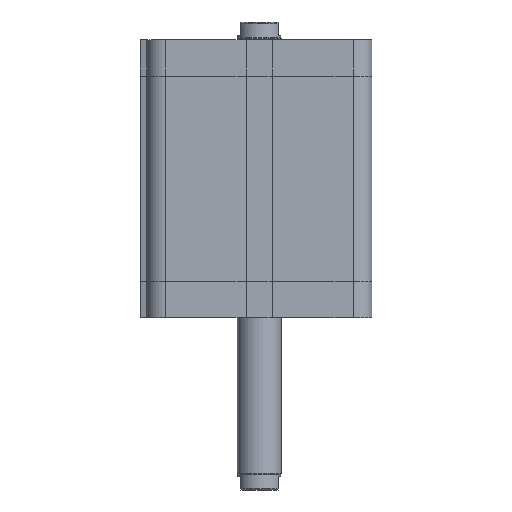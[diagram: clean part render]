
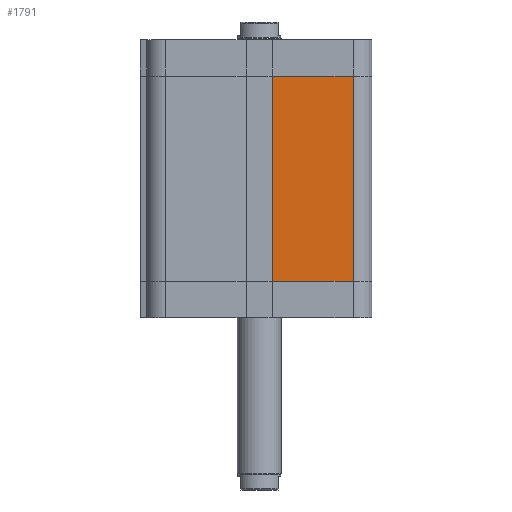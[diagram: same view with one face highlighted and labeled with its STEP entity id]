
A CAD part, left-side view. The second image highlights one B-rep face of the part: STEP entity #1791.
In plain terms, the highlighted planar face has unit normal (-1, 0, 0).
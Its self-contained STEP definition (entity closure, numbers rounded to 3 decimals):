
#1704=CARTESIAN_POINT('',(-51.,-6.,16.5));
#1705=VERTEX_POINT('',#1704);
#1712=CARTESIAN_POINT('',(-51.,-6.,109.5));
#1713=VERTEX_POINT('',#1712);
#1714=CARTESIAN_POINT('',(-51.,-6.,16.5));
#1715=DIRECTION('',(0.0,0.0,1.0));
#1716=VECTOR('',#1715,93.0);
#1717=LINE('',#1714,#1716);
#1718=EDGE_CURVE('',#1705,#1713,#1717,.T.);
#1761=CARTESIAN_POINT('',(-51.0,-42.5,0.0));
#1762=DIRECTION('',(-1.0,0.0,0.0));
#1763=DIRECTION('',(0.0,0.0,1.0));
#1764=AXIS2_PLACEMENT_3D('',#1761,#1762,#1763);
#1765=PLANE('',#1764);
#1766=CARTESIAN_POINT('',(-51.0,-42.5,16.5));
#1767=VERTEX_POINT('',#1766);
#1768=CARTESIAN_POINT('',(-51.,-6.0,16.5));
#1769=DIRECTION('',(0.0,-1.0,0.0));
#1770=VECTOR('',#1769,36.5);
#1771=LINE('',#1768,#1770);
#1772=EDGE_CURVE('',#1705,#1767,#1771,.T.);
#1773=ORIENTED_EDGE('',*,*,#1772,.T.);
#1774=CARTESIAN_POINT('',(-51.0,-42.5,109.5));
#1775=VERTEX_POINT('',#1774);
#1776=CARTESIAN_POINT('',(-51.0,-42.5,16.5));
#1777=DIRECTION('',(0.0,0.0,1.0));
#1778=VECTOR('',#1777,93.0);
#1779=LINE('',#1776,#1778);
#1780=EDGE_CURVE('',#1767,#1775,#1779,.T.);
#1781=ORIENTED_EDGE('',*,*,#1780,.T.);
#1782=CARTESIAN_POINT('',(-51.,-6.0,109.5));
#1783=DIRECTION('',(0.0,-1.0,0.0));
#1784=VECTOR('',#1783,36.5);
#1785=LINE('',#1782,#1784);
#1786=EDGE_CURVE('',#1713,#1775,#1785,.T.);
#1787=ORIENTED_EDGE('',*,*,#1786,.F.);
#1788=ORIENTED_EDGE('',*,*,#1718,.F.);
#1789=EDGE_LOOP('',(#1773,#1781,#1787,#1788));
#1790=FACE_OUTER_BOUND('',#1789,.T.);
#1791=ADVANCED_FACE('',(#1790),#1765,.T.);
